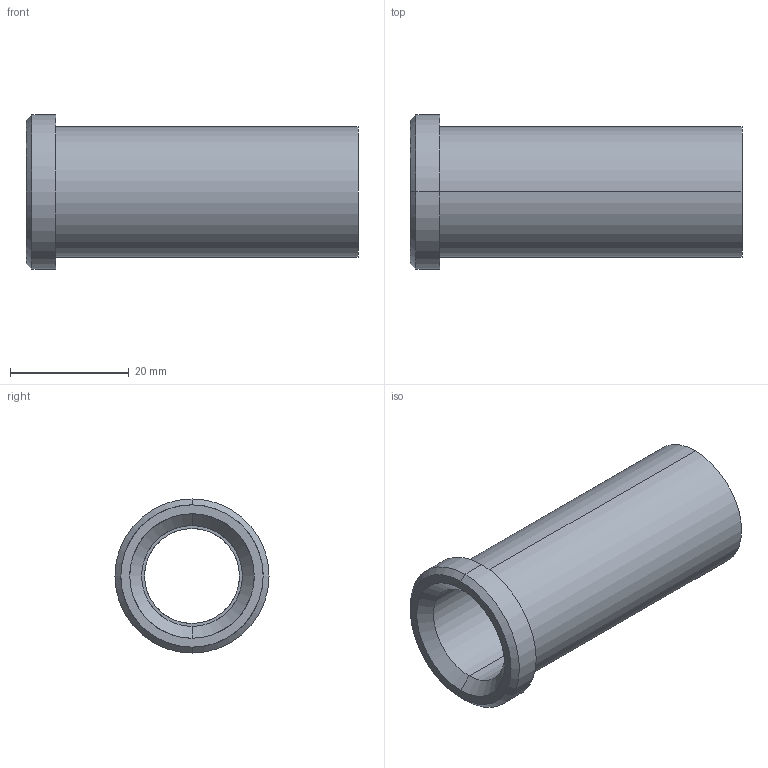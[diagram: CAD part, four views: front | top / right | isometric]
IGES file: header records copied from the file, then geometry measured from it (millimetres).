
Start section: START RECORD GO HERE.
Global section: file name: 353-16X56.igs; native system: DASSAULT SYSTEMES CATIA V5 R20 - www.3ds.com; preprocessor: CATIA Version 5 Release 20 ; author: Utente; organization: NB04-ASUS; date: 20210504.201713; units: millimetre
Bounding box: 56 x 26 x 26 mm (x, y, z)
Surface area: 7355.6 mm2 (no closed solid volume)
Topology: 0 solids, 0 shells, 18 faces, 116 edges, 116 vertices
Faces by surface type: revolution 14, plane 4
